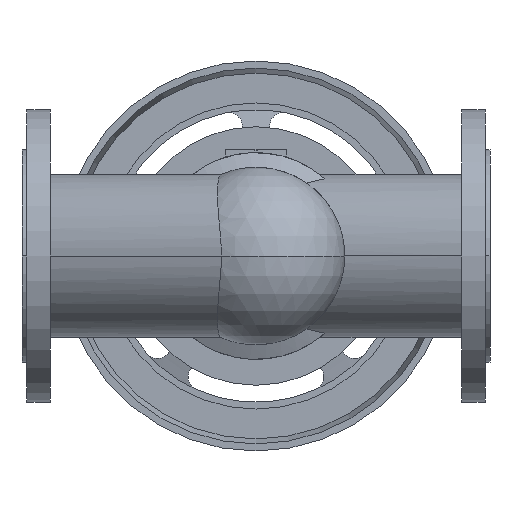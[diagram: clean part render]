
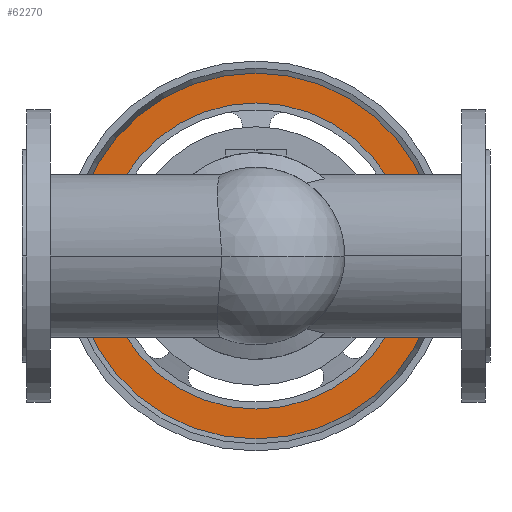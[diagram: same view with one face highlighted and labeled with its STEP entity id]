
A CAD part, front view. The second image highlights one B-rep face of the part: STEP entity #62270.
In plain terms, the highlighted planar face has unit normal (0, -1, 0).
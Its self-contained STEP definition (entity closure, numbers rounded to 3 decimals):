
#61720=CARTESIAN_POINT('',(427.662,596.5,0.)
);
#61730=VERTEX_POINT('',#61720);
#61760=CARTESIAN_POINT('',(240.,596.5,0.));
#61770=DIRECTION('',(0.,1.,0.));
#61780=DIRECTION('',(-1.,0.,0.));
#61790=AXIS2_PLACEMENT_3D('',#61760,#61770,#61780);
#61800=CIRCLE('',#61790,187.662);
#61810=CARTESIAN_POINT('',(52.338,596.5,0.));
#61820=VERTEX_POINT('',#61810);
#61830=EDGE_CURVE('',#61820,#61730,#61800,.T.);
#62020=CARTESIAN_POINT('',(67.669,596.5,0.));
#62030=DIRECTION('',(0.,-1.,0.));
#62040=DIRECTION('',(1.,0.,0.));
#62050=AXIS2_PLACEMENT_3D('',#62020,#62030,#62040);
#62060=PLANE('',#62050);
#62070=EDGE_CURVE('',#61730,#61820,#61800,.T.);
#62080=ORIENTED_EDGE('',*,*,#62070,.F.);
#62090=ORIENTED_EDGE('',*,*,#61830,.F.);
#62100=EDGE_LOOP('',(#62090,#62080));
#62110=FACE_OUTER_BOUND('',#62100,.T.);
#62120=CARTESIAN_POINT('',(240.,596.5,0.));
#62130=DIRECTION('',(0.,1.,0.));
#62140=DIRECTION('',(-1.,0.,0.));
#62150=AXIS2_PLACEMENT_3D('',#62120,#62130,#62140);
#62160=CIRCLE('',#62150,157.);
#62170=CARTESIAN_POINT('',(83.,596.5,0.));
#62180=VERTEX_POINT('',#62170);
#62190=CARTESIAN_POINT('',(397.,596.5,0.));
#62200=VERTEX_POINT('',#62190);
#62210=EDGE_CURVE('',#62180,#62200,#62160,.T.);
#62220=ORIENTED_EDGE('',*,*,#62210,.T.);
#62230=EDGE_CURVE('',#62200,#62180,#62160,.T.);
#62240=ORIENTED_EDGE('',*,*,#62230,.T.);
#62250=EDGE_LOOP('',(#62240,#62220));
#62260=FACE_BOUND('',#62250,.T.);
#62270=ADVANCED_FACE('',(#62110,#62260),#62060,.T.);
